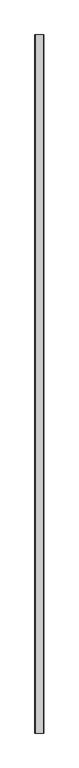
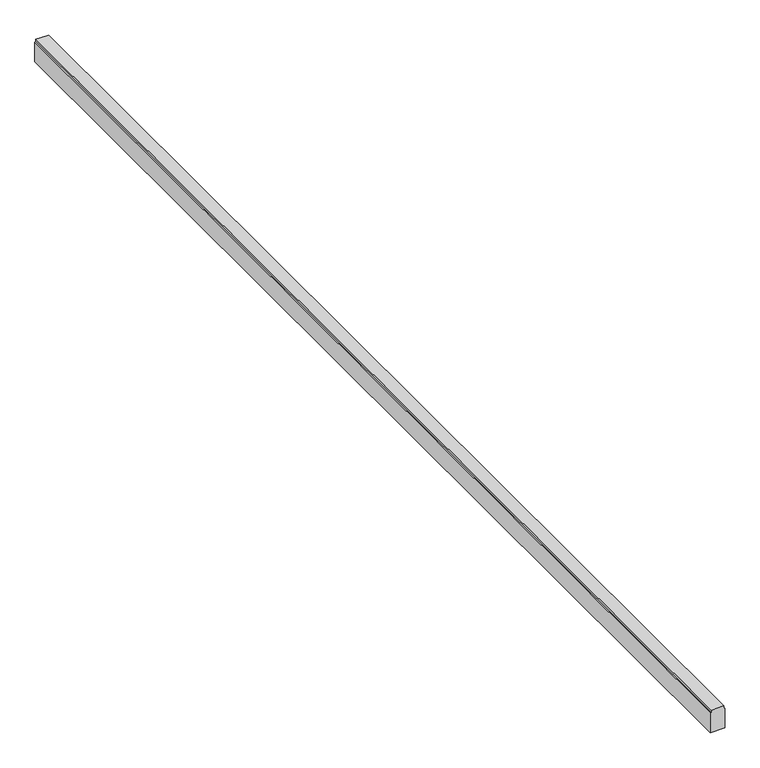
"""IFC4 building model written with IfcOpenShell, lengths in millimetres: proxy geometry, Кабель-каналы_перфорированные : Кабель-канал перфорированный 25х40 перфорация 4/6мм."""

from ifc_helpers import new_model, si_unit, frame, origin, place, context, project, spatial, polyline, outline, extrude, source, transform, mapped, element, save


def generic_models_b7b44fcd(model_context):
    return source(origin(), model_context, "Body", "SweptSolid", [
        extrude(outline(polyline([(500.0, 0.0), (535.4686048, 0.0), (536.545727, -1.696289), (540.0, -1.696289), (540.0, -23.1977999), (536.3616607, -23.1977999), (535.4772989, -25.0), (500.0, -25.0), (500.0, 0.0)])), frame((0.0, -2000.0, 0.0), z_axis=(0.0, 1.0, 0.0), x_axis=(0.0, 0.0, 1.0)), (0.0, 0.0, 1.0), 2000.0),
    ])


if __name__ == "__main__":
    model = new_model("IFC4")
    model_context = context("Model", 3, world=origin())
    ifc_project = project(units=[si_unit("LENGTHUNIT", "METRE", prefix="MILLI")], contexts=[model_context])
    site = spatial("IfcSite", under=ifc_project)
    building = spatial("IfcBuilding", under=site)
    placement = place(None, origin())
    generic_models_shape = generic_models_b7b44fcd(model_context)
    element("IfcBuildingElementProxy", 1, Name="Кабель-каналы_перфорированные : Кабель-канал перфорированный 25х40 перфорация 4/6мм", ObjectType="Кабель-каналы_перфорированные : Кабель-канал перфорированный 25х40 перфорация 4/6мм", at=placement, inside=building, context=model_context, shape_type="MappedRepresentation", body=[
        mapped(generic_models_shape, transform((0.0, 0.0, 0.0), x_axis=(1.0, 0.0, 0.0), y_axis=(0.0, 1.0, 0.0), z_axis=(0.0, 0.0, 1.0))),
    ])
    save(model, "model.ifc")
